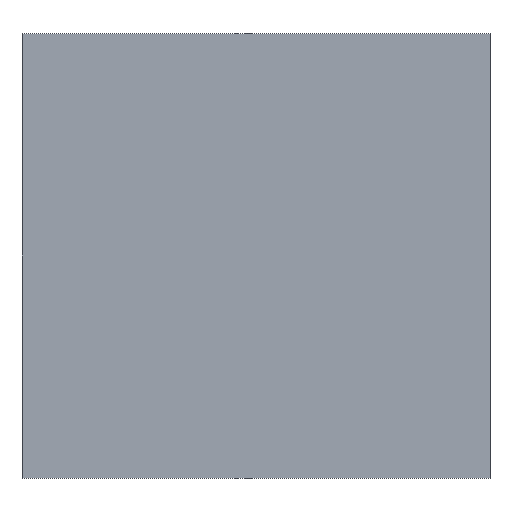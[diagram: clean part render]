
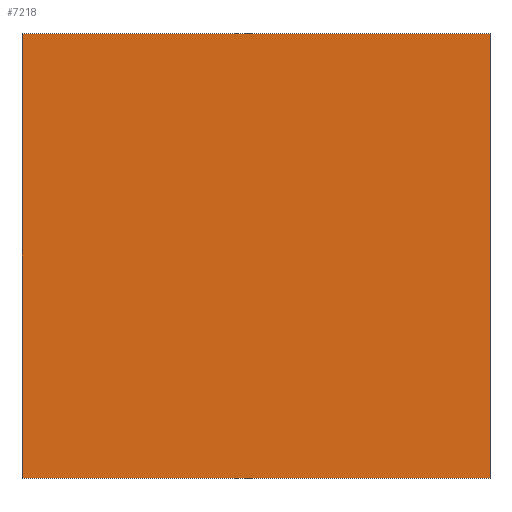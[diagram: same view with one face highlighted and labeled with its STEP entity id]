
A CAD part, front view. The second image highlights one B-rep face of the part: STEP entity #7218.
In plain terms, the highlighted planar face has unit normal (0, -1, 0).
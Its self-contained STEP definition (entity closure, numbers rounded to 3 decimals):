
#147=DIRECTION('',(-1.,0.,0.));
#148=VECTOR('',#147,50.);
#149=CARTESIAN_POINT('',(25.,0.,-23.75));
#150=LINE('',#149,#148);
#151=DIRECTION('',(0.,0.,1.));
#152=VECTOR('',#151,47.5);
#153=CARTESIAN_POINT('',(-25.,0.,-23.75));
#154=LINE('',#153,#152);
#155=DIRECTION('',(1.,0.,0.));
#156=VECTOR('',#155,50.);
#157=CARTESIAN_POINT('',(-25.,0.,23.75));
#158=LINE('',#157,#156);
#159=DIRECTION('',(0.,0.,-1.));
#160=VECTOR('',#159,47.5);
#161=CARTESIAN_POINT('',(25.,0.,23.75));
#162=LINE('',#161,#160);
#5439=CARTESIAN_POINT('',(25.,0.,-23.75));
#5440=CARTESIAN_POINT('',(-25.,0.,-23.75));
#5441=VERTEX_POINT('',#5439);
#5442=VERTEX_POINT('',#5440);
#5443=CARTESIAN_POINT('',(-25.,0.,23.75));
#5444=VERTEX_POINT('',#5443);
#5445=CARTESIAN_POINT('',(25.,0.,23.75));
#5446=VERTEX_POINT('',#5445);
#7203=CARTESIAN_POINT('',(0.,0.,0.));
#7204=DIRECTION('',(0.,1.,0.));
#7205=DIRECTION('',(1.,0.,0.));
#7206=AXIS2_PLACEMENT_3D('',#7203,#7204,#7205);
#7207=PLANE('',#7206);
#7209=ORIENTED_EDGE('',*,*,#7208,.T.);
#7211=ORIENTED_EDGE('',*,*,#7210,.T.);
#7213=ORIENTED_EDGE('',*,*,#7212,.T.);
#7215=ORIENTED_EDGE('',*,*,#7214,.T.);
#7216=EDGE_LOOP('',(#7209,#7211,#7213,#7215));
#7217=FACE_OUTER_BOUND('',#7216,.F.);
#7208=EDGE_CURVE('',#5441,#5442,#150,.T.);
#7210=EDGE_CURVE('',#5442,#5444,#154,.T.);
#7212=EDGE_CURVE('',#5444,#5446,#158,.T.);
#7214=EDGE_CURVE('',#5446,#5441,#162,.T.);
#7218=ADVANCED_FACE('',(#7217),#7207,.F.);
